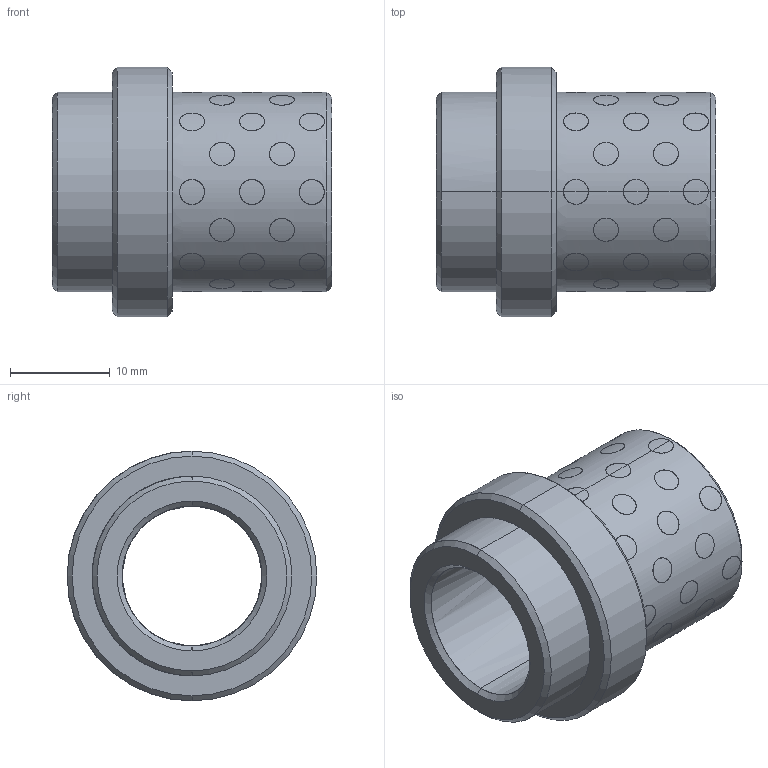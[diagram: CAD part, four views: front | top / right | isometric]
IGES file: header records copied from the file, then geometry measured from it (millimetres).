
Start section: START RECORD GO HERE.
Global section: file name: G31214022.igs; native system: DASSAULT SYSTEMES CATIA V5 R20 - www.3ds.com; preprocessor: CATIA Version 5 Release 20 ; author: r.borello; organization: CFTORINO; date: 20190624.122049; units: millimetre
Bounding box: 28 x 25 x 25 mm (x, y, z)
Surface area: 5534.8 mm2 (no closed solid volume)
Topology: 0 solids, 0 shells, 276 faces, 1200 edges, 1200 vertices
Faces by surface type: revolution 272, plane 4
